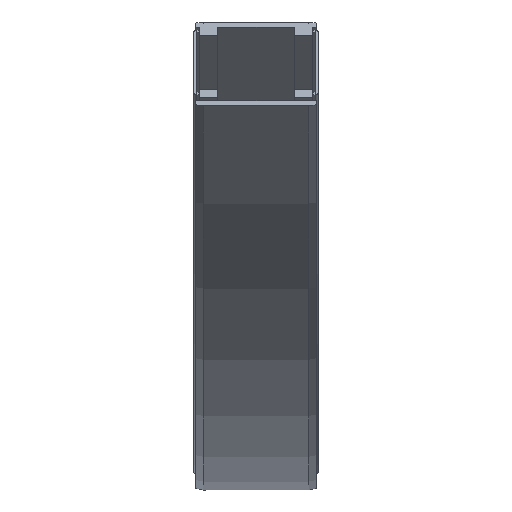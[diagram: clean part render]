
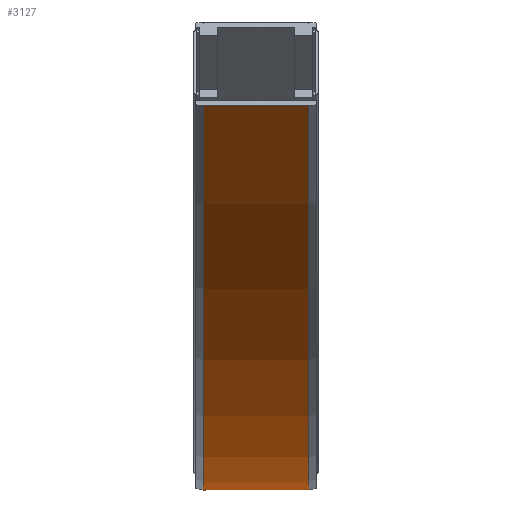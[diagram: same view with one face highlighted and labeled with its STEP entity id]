
A CAD part, top view. The second image highlights one B-rep face of the part: STEP entity #3127.
In plain terms, the highlighted cylindrical face has radius 902.5 mm (diameter 1805 mm), a partial arc.
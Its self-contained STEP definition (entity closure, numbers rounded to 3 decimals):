
#3069=CARTESIAN_POINT('',(-36.5,-11.,0.));
#3070=VERTEX_POINT('',#3069);
#3077=CARTESIAN_POINT('',(-36.5,253.336,638.164));
#3078=VERTEX_POINT('',#3077);
#3079=CARTESIAN_POINT('',(-36.5,891.5,0.));
#3080=DIRECTION('',(1.,0.0,0.0));
#3081=DIRECTION('',(0.0,-0.707,0.707));
#3082=AXIS2_PLACEMENT_3D('',#3079,#3080,#3081);
#3083=CIRCLE('',#3082,902.5);
#3084=EDGE_CURVE('',#3078,#3070,#3083,.T.);
#3096=CARTESIAN_POINT('',(0.,891.5,0.));
#3097=DIRECTION('',(1.0,0.0,0.0));
#3098=DIRECTION('',(0.0,-0.707,0.707));
#3099=AXIS2_PLACEMENT_3D('',#3096,#3097,#3098);
#3100=CYLINDRICAL_SURFACE('',#3099,902.5);
#3101=CARTESIAN_POINT('',(36.5,-11.,0.));
#3102=VERTEX_POINT('',#3101);
#3103=CARTESIAN_POINT('',(-36.5,-11.,0.));
#3104=DIRECTION('',(1.0,0.0,0.0));
#3105=VECTOR('',#3104,73.);
#3106=LINE('',#3103,#3105);
#3107=EDGE_CURVE('',#3070,#3102,#3106,.T.);
#3108=ORIENTED_EDGE('',*,*,#3107,.T.);
#3109=CARTESIAN_POINT('',(36.5,253.336,638.164));
#3110=VERTEX_POINT('',#3109);
#3111=CARTESIAN_POINT('',(36.5,891.5,0.));
#3112=DIRECTION('',(1.,0.0,0.0));
#3113=DIRECTION('',(0.0,-0.707,0.707));
#3114=AXIS2_PLACEMENT_3D('',#3111,#3112,#3113);
#3115=CIRCLE('',#3114,902.5);
#3116=EDGE_CURVE('',#3110,#3102,#3115,.T.);
#3117=ORIENTED_EDGE('',*,*,#3116,.F.);
#3118=CARTESIAN_POINT('',(-36.5,253.336,638.164));
#3119=DIRECTION('',(1.0,0.0,0.0));
#3120=VECTOR('',#3119,73.);
#3121=LINE('',#3118,#3120);
#3122=EDGE_CURVE('',#3078,#3110,#3121,.T.);
#3123=ORIENTED_EDGE('',*,*,#3122,.F.);
#3124=ORIENTED_EDGE('',*,*,#3084,.T.);
#3125=EDGE_LOOP('',(#3108,#3117,#3123,#3124));
#3126=FACE_OUTER_BOUND('',#3125,.T.);
#3127=ADVANCED_FACE('',(#3126),#3100,.T.);
